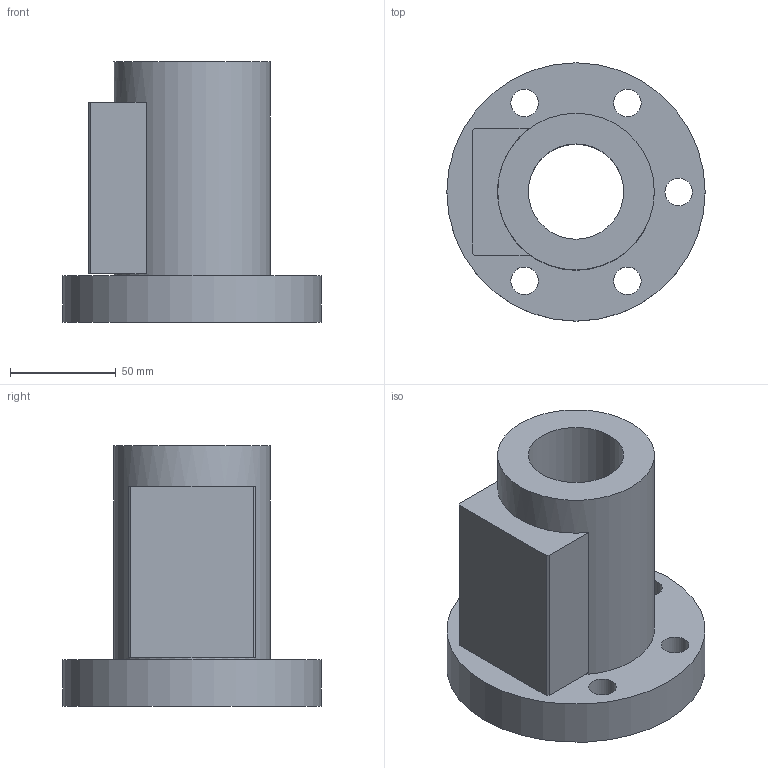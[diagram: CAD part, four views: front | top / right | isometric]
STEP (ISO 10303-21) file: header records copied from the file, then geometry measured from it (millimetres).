
FILE_DESCRIPTION(/* description */ (''),/* implementation_level */ '2;1');
FILE_NAME(/* name */ '45-12B2',/* time_stamp */ '2006-07-31T11:51:00+08:00',/* author */ (''),/* organization */ (''),/* preprocessor_version */ 'ST-DEVELOPER v9',/* originating_system */ 'UGS - NX 4.0',/* authorisation */ '');
FILE_SCHEMA (('CONFIG_CONTROL_DESIGN'));
Length unit declared in the file: millimetre
Products named in the file (1): 45-12B2
Bounding box: 122 x 122 x 123 mm (x, y, z)
Volume: 550130 mm3; surface area: 79611.4 mm2
Topology: 1 solids, 1 shells, 28 faces, 61 edges, 42 vertices
Faces by surface type: plane 15, cylinder 13
Full cylindrical faces by diameter (mm): 13 x5, 20 x5, 45 x1, 74 x1, 122 x1
Entity records: 794 total; most frequent: DIRECTION 130, CARTESIAN_POINT 111, ORIENTED_EDGE 88, EDGE_LOOP 60, AXIS2_PLACEMENT_3D 57, FACE_BOUND 45, EDGE_CURVE 44, VERTEX_POINT 38
